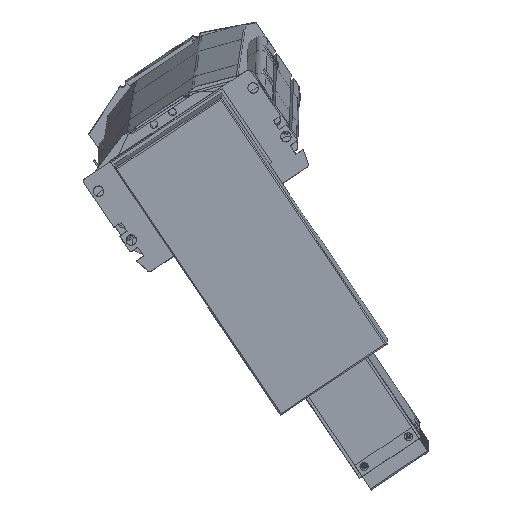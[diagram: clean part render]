
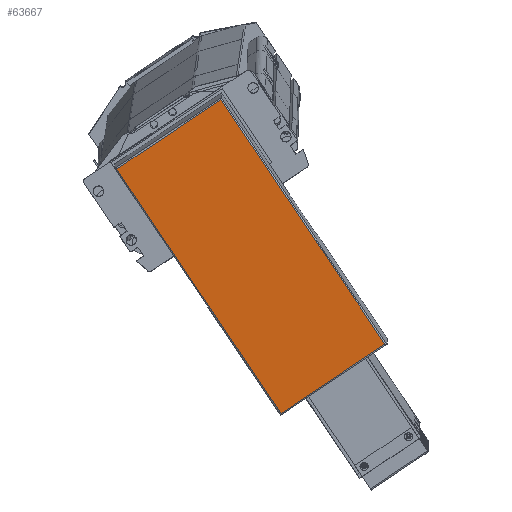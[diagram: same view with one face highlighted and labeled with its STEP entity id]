
A CAD part, top view. The second image highlights one B-rep face of the part: STEP entity #63667.
In plain terms, the highlighted planar face has unit normal (-0.003, -0.079, 0.997) as drawn and (0, 0, 1) by its records, which use the part's own axes.
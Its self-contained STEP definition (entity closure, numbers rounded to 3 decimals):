
#52997 = CARTESIAN_POINT ( 'NONE',  ( -41.95, 72.75, 44. ) ) ;
#53573 = CARTESIAN_POINT ( 'NONE',  ( 41.95, 72.75, 44. ) ) ;
#53631 = DIRECTION ( 'NONE',  ( -1., 0., 0. ) ) ;
#53632 = VECTOR ( 'NONE', #53631, 1000. ) ;
#53633 = CARTESIAN_POINT ( 'NONE',  ( -42.95, 72.75, 44. ) ) ;
#53668 = LINE ( 'NONE', #53633, #53632 ) ;
#53703 = DIRECTION ( 'NONE',  ( 0., 1., 0. ) ) ;
#53705 = VECTOR ( 'NONE', #53703, 1000. ) ;
#53707 = CARTESIAN_POINT ( 'NONE',  ( 41.95, -126.25, 44. ) ) ;
#53709 = CARTESIAN_POINT ( 'NONE',  ( 41.95, -125.25, 44. ) ) ;
#53714 = LINE ( 'NONE', #53707, #53705 ) ;
#53780 = DIRECTION ( 'NONE',  ( 1., 0., 0. ) ) ;
#53781 = CARTESIAN_POINT ( 'NONE',  ( -42.95, -125.25, 44. ) ) ;
#53782 = LINE ( 'NONE', #53781, #53840 ) ;
#53788 = CARTESIAN_POINT ( 'NONE',  ( -41.95, -125.25, 44. ) ) ;
#53830 = DIRECTION ( 'NONE',  ( 0., -1., 0. ) ) ;
#53831 = VECTOR ( 'NONE', #53830, 1000. ) ;
#53835 = CARTESIAN_POINT ( 'NONE',  ( -41.95, -126.25, 44. ) ) ;
#53837 = LINE ( 'NONE', #53835, #53831 ) ;
#53840 = VECTOR ( 'NONE', #53780, 1000. ) ;
#53933 = PLANE ( 'NONE',  #53950 ) ;
#53937 = FACE_OUTER_BOUND ( 'NONE', #63632, .T. ) ;
#53939 = DIRECTION ( 'NONE',  ( 0., 0., 1. ) ) ;
#53941 = CARTESIAN_POINT ( 'NONE',  ( -42.95, -126.25, 44. ) ) ;
#53946 = DIRECTION ( 'NONE',  ( 1., 0., 0. ) ) ;
#53950 = AXIS2_PLACEMENT_3D ( 'NONE', #53941, #53939, #53946 ) ;
#63556 = VERTEX_POINT ( 'NONE', #52997 ) ;
#63573 = VERTEX_POINT ( 'NONE', #53573 ) ;
#63582 = EDGE_CURVE ( 'NONE', #63573, #63556, #53668, .T. ) ;
#63598 = ORIENTED_EDGE ( 'NONE', *, *, #63625, .T. ) ;
#63599 = EDGE_CURVE ( 'NONE', #63605, #63573, #53714, .T. ) ;
#63605 = VERTEX_POINT ( 'NONE', #53709 ) ;
#63607 = ORIENTED_EDGE ( 'NONE', *, *, #63623, .T. ) ;
#63610 = ORIENTED_EDGE ( 'NONE', *, *, #63599, .T. ) ;
#63620 = VERTEX_POINT ( 'NONE', #53788 ) ;
#63623 = EDGE_CURVE ( 'NONE', #63620, #63605, #53782, .T. ) ;
#63625 = EDGE_CURVE ( 'NONE', #63556, #63620, #53837, .T. ) ;
#63632 = EDGE_LOOP ( 'NONE', ( #63607, #63610, #63639, #63598 ) ) ;
#63639 = ORIENTED_EDGE ( 'NONE', *, *, #63582, .T. ) ;
#63667 = ADVANCED_FACE ( 'NONE', ( #53937 ), #53933, .T. ) ;
